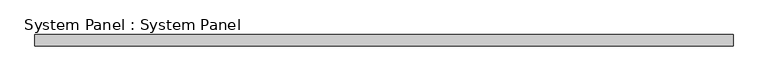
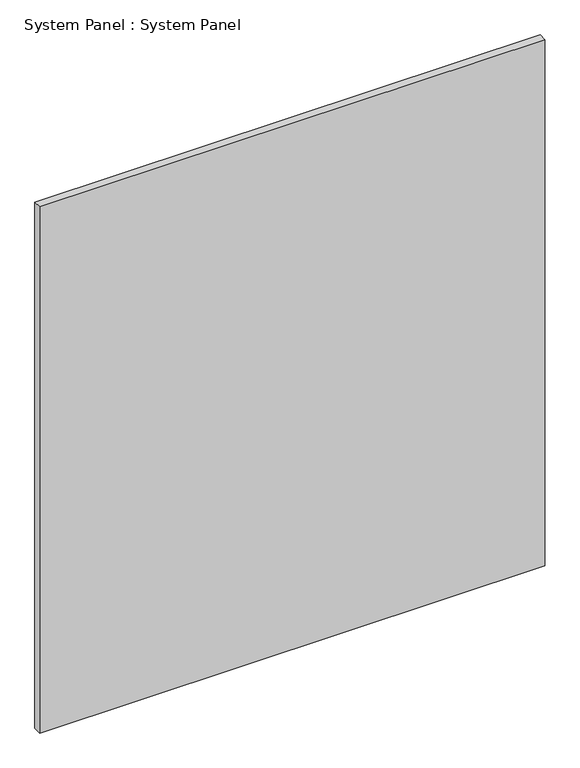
"""IFC4 building model written with IfcOpenShell, lengths in millimetres: plate geometry, System Panel : System Panel."""

from ifc_helpers import new_model, si_unit, origin, origin_with_axes, place, context, project, spatial, polyline, outline, extrude, source, transform, mapped, element, save


def system_panel_system_panel_37b3a9aa(model_context):
    return source(origin(), model_context, "Body", "SweptSolid", [
        extrude(outline(polyline([(787.4, 19.05), (-787.4, 19.05), (-787.4, 44.45), (787.4, 44.45), (787.4, 19.05)])), origin_with_axes(), (0.0, 0.0, 1.0), 1733.55),
    ])


if __name__ == "__main__":
    model = new_model("IFC4")
    model_context = context("Model", 3, world=origin())
    ifc_project = project(units=[si_unit("LENGTHUNIT", "METRE", prefix="MILLI")], contexts=[model_context])
    site = spatial("IfcSite", under=ifc_project)
    building = spatial("IfcBuilding", under=site)
    placement = place(None, origin())
    system_panel_system_panel_shape = system_panel_system_panel_37b3a9aa(model_context)
    element("IfcPlate", 1, ObjectType="System Panel : System Panel", at=placement, inside=building, context=model_context, shape_type="MappedRepresentation", body=[
        mapped(system_panel_system_panel_shape, transform((0.0, 0.0, 0.0), x_axis=(1.0, 0.0, 0.0), y_axis=(0.0, 1.0, 0.0), z_axis=(0.0, 0.0, 1.0))),
    ])
    save(model, "model.ifc")
